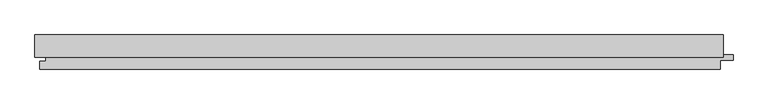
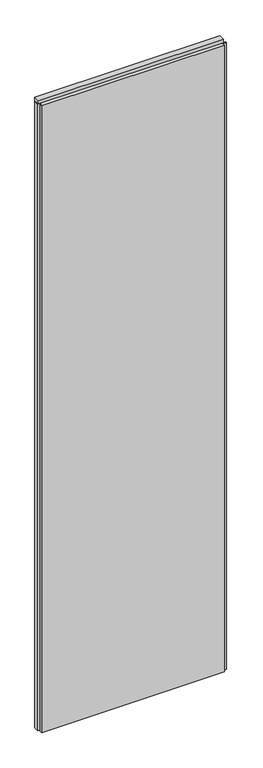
"""IFC4 building model written with IfcOpenShell, lengths in millimetres: plate geometry, Trimo_Qbiss Screen_Normal Panel-VERTICAL : HR - FB-F."""

from ifc_helpers import new_model, si_unit, frame, origin, place, context, project, spatial, polyline, outline, extrude, source, transform, mapped, element, save


def plate_8cbeb516(model_context):
    return source(origin(), model_context, "Body", "SweptSolid", [
        extrude(outline(polyline([(-500.0, 93.9), (-500.0, 126.0), (500.0, 126.0), (500.0, 93.9), (-500.0, 93.9)])), frame((0.0, 0.0, 3590.5), z_axis=(0.0, 0.0, 1.0), x_axis=(1.0, 0.0, 0.0)), (0.0, 0.0, 1.0), 19.0),
        extrude(outline(polyline([(496.0, 97.0), (514.5, 97.0), (514.5, 89.0), (496.0, 89.0), (496.0, 76.0), (-493.0, 76.0), (-493.0, 88.0), (-484.5, 88.0), (-484.5, 98.0), (-500.0, 98.0), (-500.0, 126.0), (496.0, 126.0), (496.0, 97.0)])), frame((0.0, 0.0, 12.5), z_axis=(0.0, 0.0, 1.0), x_axis=(1.0, 0.0, 0.0)), (0.0, 0.0, 1.0), 3575.0),
    ])


if __name__ == "__main__":
    model = new_model("IFC4")
    model_context = context("Model", 3, world=origin())
    ifc_project = project(units=[si_unit("LENGTHUNIT", "METRE", prefix="MILLI")], contexts=[model_context])
    site = spatial("IfcSite", under=ifc_project)
    building = spatial("IfcBuilding", under=site)
    placement = place(None, origin())
    plate_shape = plate_8cbeb516(model_context)
    element("IfcPlate", 1, ObjectType="Trimo_Qbiss Screen_Normal Panel-VERTICAL : HR - FB-F", at=placement, inside=building, context=model_context, shape_type="MappedRepresentation", body=[
        mapped(plate_shape, transform((0.0, 0.0, 0.0), x_axis=(1.0, 0.0, 0.0), y_axis=(0.0, 1.0, 0.0), z_axis=(0.0, 0.0, 1.0))),
    ])
    save(model, "model.ifc")
